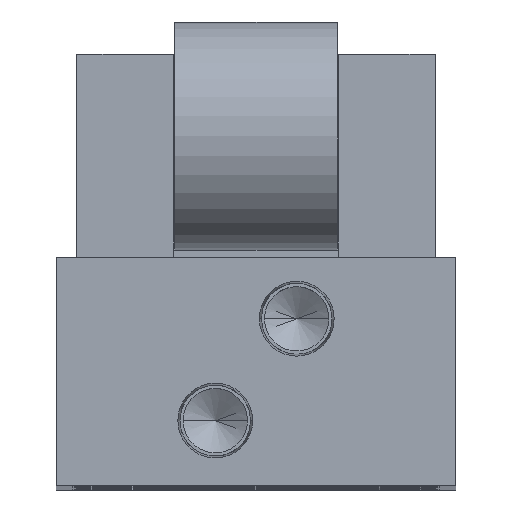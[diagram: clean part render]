
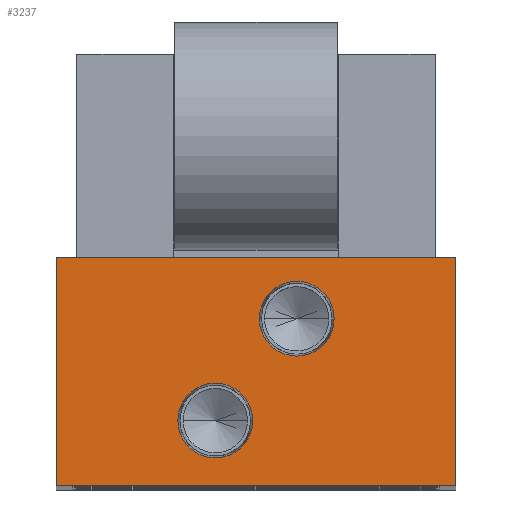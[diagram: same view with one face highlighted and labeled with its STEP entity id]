
A CAD part, top view. The second image highlights one B-rep face of the part: STEP entity #3237.
In plain terms, the highlighted planar face has unit normal (0, 0, 1).
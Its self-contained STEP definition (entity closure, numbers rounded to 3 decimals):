
#31 = AXIS2_PLACEMENT_3D ( 'NONE', #1399, #7756, #2322 ) ;
#552 = CARTESIAN_POINT ( 'NONE',  ( 24.5, 28., 0. ) ) ;
#626 = DIRECTION ( 'NONE',  ( 0., 0., 1. ) ) ;
#815 = CIRCLE ( 'NONE', #31, 4.592 ) ;
#981 = EDGE_CURVE ( 'NONE', #3104, #10252, #2793, .T. ) ;
#1061 = CARTESIAN_POINT ( 'NONE',  ( -24.5, 0., 0. ) ) ;
#1334 = VERTEX_POINT ( 'NONE', #10007 ) ;
#1363 = FACE_BOUND ( 'NONE', #5268, .T. ) ;
#1399 = CARTESIAN_POINT ( 'NONE',  ( -5., 8., 0. ) ) ;
#1469 = CARTESIAN_POINT ( 'NONE',  ( -24.5, 0., 0. ) ) ;
#1691 = VERTEX_POINT ( 'NONE', #4260 ) ;
#1763 = EDGE_CURVE ( 'NONE', #1334, #2738, #11321, .T. ) ;
#1870 = DIRECTION ( 'NONE',  ( 0., 0., 1. ) ) ;
#1916 = VERTEX_POINT ( 'NONE', #2914 ) ;
#2151 = ORIENTED_EDGE ( 'NONE', *, *, #981, .T. ) ;
#2202 = ORIENTED_EDGE ( 'NONE', *, *, #6053, .T. ) ;
#2276 = VECTOR ( 'NONE', #2385, 1000. ) ;
#2277 = EDGE_CURVE ( 'NONE', #2738, #1334, #815, .T. ) ;
#2322 = DIRECTION ( 'NONE',  ( 1., 0., 0. ) ) ;
#2323 = AXIS2_PLACEMENT_3D ( 'NONE', #8234, #2785, #9137 ) ;
#2385 = DIRECTION ( 'NONE',  ( 0., 1., 0. ) ) ;
#2738 = VERTEX_POINT ( 'NONE', #5546 ) ;
#2785 = DIRECTION ( 'NONE',  ( 0., 0., 1. ) ) ;
#2793 = LINE ( 'NONE', #1469, #10033 ) ;
#2834 = ORIENTED_EDGE ( 'NONE', *, *, #10011, .F. ) ;
#2914 = CARTESIAN_POINT ( 'NONE',  ( 0.408, 20.5, 0. ) ) ;
#2931 = ORIENTED_EDGE ( 'NONE', *, *, #2277, .F. ) ;
#3104 = VERTEX_POINT ( 'NONE', #1061 ) ;
#3237 = ADVANCED_FACE ( 'NONE', ( #1363, #3513, #6184 ), #3379, .T. ) ;
#3344 = CARTESIAN_POINT ( 'NONE',  ( 0., 0., 0. ) ) ;
#3379 = PLANE ( 'NONE',  #4628 ) ;
#3513 = FACE_BOUND ( 'NONE', #8604, .T. ) ;
#3803 = CARTESIAN_POINT ( 'NONE',  ( -24.5, 28., 0. ) ) ;
#4046 = CARTESIAN_POINT ( 'NONE',  ( -24.5, 28., 0. ) ) ;
#4238 = CIRCLE ( 'NONE', #7395, 4.592 ) ;
#4260 = CARTESIAN_POINT ( 'NONE',  ( -24.5, 28., 0. ) ) ;
#4309 = ORIENTED_EDGE ( 'NONE', *, *, #8971, .T. ) ;
#4348 = CARTESIAN_POINT ( 'NONE',  ( 5., 20.5, 0. ) ) ;
#4439 = ORIENTED_EDGE ( 'NONE', *, *, #4861, .F. ) ;
#4628 = AXIS2_PLACEMENT_3D ( 'NONE', #3344, #626, #5170 ) ;
#4861 = EDGE_CURVE ( 'NONE', #1916, #11245, #4238, .T. ) ;
#5170 = DIRECTION ( 'NONE',  ( 1., 0., 0. ) ) ;
#5245 = DIRECTION ( 'NONE',  ( 1., 0., 0. ) ) ;
#5268 = EDGE_LOOP ( 'NONE', ( #2931, #6902 ) ) ;
#5322 = EDGE_LOOP ( 'NONE', ( #2202, #2151, #9870, #4309 ) ) ;
#5469 = CARTESIAN_POINT ( 'NONE',  ( 24.5, 0., 0. ) ) ;
#5546 = CARTESIAN_POINT ( 'NONE',  ( -0.408, 8., 0. ) ) ;
#5635 = CARTESIAN_POINT ( 'NONE',  ( 24.5, 28., 0. ) ) ;
#5675 = VECTOR ( 'NONE', #11089, 1000. ) ;
#6053 = EDGE_CURVE ( 'NONE', #1691, #3104, #8892, .T. ) ;
#6171 = VECTOR ( 'NONE', #7701, 1000. ) ;
#6184 = FACE_OUTER_BOUND ( 'NONE', #5322, .T. ) ;
#6875 = EDGE_CURVE ( 'NONE', #10252, #8626, #9514, .T. ) ;
#6902 = ORIENTED_EDGE ( 'NONE', *, *, #1763, .F. ) ;
#7289 = CARTESIAN_POINT ( 'NONE',  ( 5., 20.5, 0. ) ) ;
#7395 = AXIS2_PLACEMENT_3D ( 'NONE', #4348, #10688, #5245 ) ;
#7701 = DIRECTION ( 'NONE',  ( 0., -1., 0. ) ) ;
#7756 = DIRECTION ( 'NONE',  ( 0., 0., 1. ) ) ;
#8232 = DIRECTION ( 'NONE',  ( 1., 0., 0. ) ) ;
#8234 = CARTESIAN_POINT ( 'NONE',  ( -5., 8., 0. ) ) ;
#8604 = EDGE_LOOP ( 'NONE', ( #2834, #4439 ) ) ;
#8626 = VERTEX_POINT ( 'NONE', #5635 ) ;
#8892 = LINE ( 'NONE', #4046, #6171 ) ;
#8971 = EDGE_CURVE ( 'NONE', #8626, #1691, #10492, .T. ) ;
#9073 = CIRCLE ( 'NONE', #9733, 4.592 ) ;
#9137 = DIRECTION ( 'NONE',  ( 1., 0., 0. ) ) ;
#9514 = LINE ( 'NONE', #552, #2276 ) ;
#9733 = AXIS2_PLACEMENT_3D ( 'NONE', #7289, #1870, #8232 ) ;
#9870 = ORIENTED_EDGE ( 'NONE', *, *, #6875, .T. ) ;
#10007 = CARTESIAN_POINT ( 'NONE',  ( -9.592, 8., 0. ) ) ;
#10011 = EDGE_CURVE ( 'NONE', #11245, #1916, #9073, .T. ) ;
#10033 = VECTOR ( 'NONE', #11440, 1000. ) ;
#10252 = VERTEX_POINT ( 'NONE', #5469 ) ;
#10492 = LINE ( 'NONE', #3803, #5675 ) ;
#10688 = DIRECTION ( 'NONE',  ( 0., 0., 1. ) ) ;
#10841 = CARTESIAN_POINT ( 'NONE',  ( 9.592, 20.5, 0. ) ) ;
#11089 = DIRECTION ( 'NONE',  ( -1., 0., 0. ) ) ;
#11245 = VERTEX_POINT ( 'NONE', #10841 ) ;
#11321 = CIRCLE ( 'NONE', #2323, 4.592 ) ;
#11440 = DIRECTION ( 'NONE',  ( 1., 0., 0. ) ) ;
